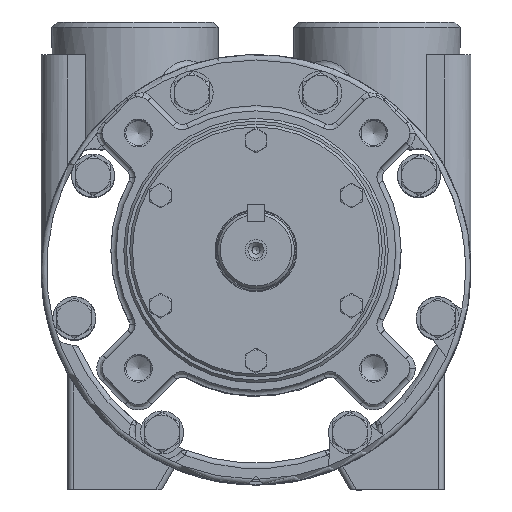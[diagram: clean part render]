
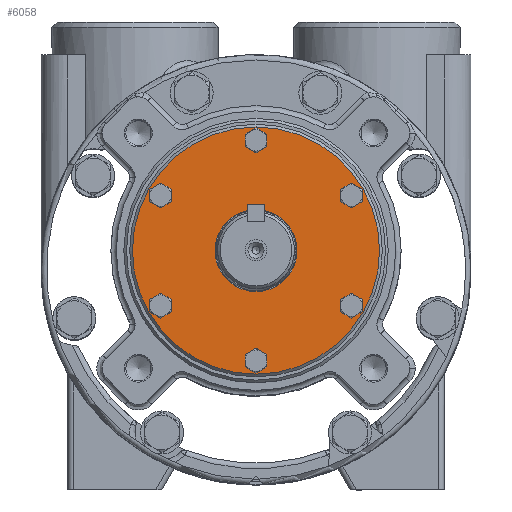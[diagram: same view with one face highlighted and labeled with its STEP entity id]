
A CAD part, top view. The second image highlights one B-rep face of the part: STEP entity #6058.
In plain terms, the highlighted planar face has unit normal (0, 0, 1).
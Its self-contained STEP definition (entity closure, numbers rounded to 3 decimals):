
#242 = FACE_BOUND ( 'NONE', #40261, .T. ) ;
#409 = EDGE_CURVE ( 'NONE', #11302, #11302, #19722, .T. ) ;
#464 = CIRCLE ( 'NONE', #6366, 4. ) ;
#470 = FACE_OUTER_BOUND ( 'NONE', #41427, .T. ) ;
#493 = CIRCLE ( 'NONE', #16029, 4. ) ;
#973 = AXIS2_PLACEMENT_3D ( 'NONE', #5956, #22854, #30714 ) ;
#1109 = EDGE_CURVE ( 'NONE', #25164, #25164, #25176, .T. ) ;
#2266 = CARTESIAN_POINT ( 'NONE',  ( 15.25, 7., 113.75 ) ) ;
#3285 = CIRCLE ( 'NONE', #973, 4. ) ;
#4436 = ORIENTED_EDGE ( 'NONE', *, *, #409, .F. ) ;
#4643 = PLANE ( 'NONE',  #5414 ) ;
#5260 = ORIENTED_EDGE ( 'NONE', *, *, #36719, .F. ) ;
#5350 = EDGE_CURVE ( 'NONE', #32350, #32350, #493, .T. ) ;
#5414 = AXIS2_PLACEMENT_3D ( 'NONE', #21973, #32164, #18748 ) ;
#5956 = CARTESIAN_POINT ( 'NONE',  ( 0., -34., 113.75 ) ) ;
#6058 = ADVANCED_FACE ( 'NONE', ( #470, #242, #14602, #25219, #15059, #25689, #36110, #8098 ), #4643, .F. ) ;
#6366 = AXIS2_PLACEMENT_3D ( 'NONE', #26402, #29888, #12062 ) ;
#6712 = AXIS2_PLACEMENT_3D ( 'NONE', #12506, #7872, #15071 ) ;
#6739 = ORIENTED_EDGE ( 'NONE', *, *, #32360, .F. ) ;
#7109 = DIRECTION ( 'NONE',  ( 1., 0., 0. ) ) ;
#7142 = DIRECTION ( 'NONE',  ( 0., 0., 1. ) ) ;
#7571 = CARTESIAN_POINT ( 'NONE',  ( 0., 53., 113.75 ) ) ;
#7872 = DIRECTION ( 'NONE',  ( 0., 0., -1. ) ) ;
#7971 = DIRECTION ( 'NONE',  ( 0., 0., 1. ) ) ;
#8098 = FACE_BOUND ( 'NONE', #35243, .T. ) ;
#8236 = ORIENTED_EDGE ( 'NONE', *, *, #9190, .F. ) ;
#9156 = EDGE_LOOP ( 'NONE', ( #4436 ) ) ;
#9190 = EDGE_CURVE ( 'NONE', #31875, #31875, #3285, .T. ) ;
#10425 = DIRECTION ( 'NONE',  ( 1., 0., 0. ) ) ;
#10792 = ORIENTED_EDGE ( 'NONE', *, *, #31900, .F. ) ;
#10823 = CARTESIAN_POINT ( 'NONE',  ( 39.507, -13.5, 113.75 ) ) ;
#11302 = VERTEX_POINT ( 'NONE', #10823 ) ;
#12062 = DIRECTION ( 'NONE',  ( 1., 0., 0. ) ) ;
#12506 = CARTESIAN_POINT ( 'NONE',  ( 0., 7., 113.75 ) ) ;
#14016 = EDGE_LOOP ( 'NONE', ( #23002 ) ) ;
#14602 = FACE_BOUND ( 'NONE', #39458, .T. ) ;
#15059 = FACE_BOUND ( 'NONE', #43128, .T. ) ;
#15067 = ORIENTED_EDGE ( 'NONE', *, *, #41814, .F. ) ;
#15071 = DIRECTION ( 'NONE',  ( 0., 1., 0. ) ) ;
#16029 = AXIS2_PLACEMENT_3D ( 'NONE', #39440, #7971, #36660 ) ;
#16170 = DIRECTION ( 'NONE',  ( 1., 0., 0. ) ) ;
#16576 = CARTESIAN_POINT ( 'NONE',  ( 39.507, 27.5, 113.75 ) ) ;
#17257 = VERTEX_POINT ( 'NONE', #41373 ) ;
#17347 = DIRECTION ( 'NONE',  ( 0., 0., 1. ) ) ;
#18748 = DIRECTION ( 'NONE',  ( -1., 0., 0. ) ) ;
#19722 = CIRCLE ( 'NONE', #39658, 4. ) ;
#21288 = CIRCLE ( 'NONE', #30926, 4. ) ;
#21973 = CARTESIAN_POINT ( 'NONE',  ( 46.552, -39.552, 113.75 ) ) ;
#22854 = DIRECTION ( 'NONE',  ( 0., 0., 1. ) ) ;
#23002 = ORIENTED_EDGE ( 'NONE', *, *, #5350, .F. ) ;
#24243 = DIRECTION ( 'NONE',  ( 0., 0., 1. ) ) ;
#24518 = DIRECTION ( 'NONE',  ( 1., 0., 0. ) ) ;
#24703 = CARTESIAN_POINT ( 'NONE',  ( 35.507, -13.5, 113.75 ) ) ;
#25164 = VERTEX_POINT ( 'NONE', #7571 ) ;
#25176 = CIRCLE ( 'NONE', #6712, 46. ) ;
#25219 = FACE_BOUND ( 'NONE', #9156, .T. ) ;
#25689 = FACE_BOUND ( 'NONE', #34226, .T. ) ;
#26402 = CARTESIAN_POINT ( 'NONE',  ( 0., 48., 113.75 ) ) ;
#26970 = AXIS2_PLACEMENT_3D ( 'NONE', #38861, #17347, #10425 ) ;
#27690 = ORIENTED_EDGE ( 'NONE', *, *, #1109, .F. ) ;
#29365 = AXIS2_PLACEMENT_3D ( 'NONE', #41838, #24243, #16170 ) ;
#29888 = DIRECTION ( 'NONE',  ( 0., 0., 1. ) ) ;
#30714 = DIRECTION ( 'NONE',  ( 1., 0., 0. ) ) ;
#30926 = AXIS2_PLACEMENT_3D ( 'NONE', #38837, #7142, #24518 ) ;
#31389 = CIRCLE ( 'NONE', #26970, 15.25 ) ;
#31661 = CARTESIAN_POINT ( 'NONE',  ( 4., -34., 113.75 ) ) ;
#31875 = VERTEX_POINT ( 'NONE', #31661 ) ;
#31900 = EDGE_CURVE ( 'NONE', #17257, #17257, #464, .T. ) ;
#32164 = DIRECTION ( 'NONE',  ( 0., 0., -1. ) ) ;
#32350 = VERTEX_POINT ( 'NONE', #42313 ) ;
#32360 = EDGE_CURVE ( 'NONE', #41580, #41580, #35973, .T. ) ;
#33944 = VERTEX_POINT ( 'NONE', #2266 ) ;
#34161 = VERTEX_POINT ( 'NONE', #16576 ) ;
#34226 = EDGE_LOOP ( 'NONE', ( #6739 ) ) ;
#35243 = EDGE_LOOP ( 'NONE', ( #10792 ) ) ;
#35973 = CIRCLE ( 'NONE', #29365, 4. ) ;
#36110 = FACE_BOUND ( 'NONE', #14016, .T. ) ;
#36660 = DIRECTION ( 'NONE',  ( 1., 0., 0. ) ) ;
#36719 = EDGE_CURVE ( 'NONE', #33944, #33944, #31389, .T. ) ;
#38805 = DIRECTION ( 'NONE',  ( 0., 0., 1. ) ) ;
#38837 = CARTESIAN_POINT ( 'NONE',  ( 35.507, 27.5, 113.75 ) ) ;
#38861 = CARTESIAN_POINT ( 'NONE',  ( 0., 7., 113.75 ) ) ;
#39440 = CARTESIAN_POINT ( 'NONE',  ( -35.507, 27.5, 113.75 ) ) ;
#39458 = EDGE_LOOP ( 'NONE', ( #15067 ) ) ;
#39658 = AXIS2_PLACEMENT_3D ( 'NONE', #24703, #38805, #7109 ) ;
#40261 = EDGE_LOOP ( 'NONE', ( #5260 ) ) ;
#41373 = CARTESIAN_POINT ( 'NONE',  ( 4., 48., 113.75 ) ) ;
#41427 = EDGE_LOOP ( 'NONE', ( #27690 ) ) ;
#41580 = VERTEX_POINT ( 'NONE', #44599 ) ;
#41814 = EDGE_CURVE ( 'NONE', #34161, #34161, #21288, .T. ) ;
#41838 = CARTESIAN_POINT ( 'NONE',  ( -35.507, -13.5, 113.75 ) ) ;
#42313 = CARTESIAN_POINT ( 'NONE',  ( -31.507, 27.5, 113.75 ) ) ;
#43128 = EDGE_LOOP ( 'NONE', ( #8236 ) ) ;
#44599 = CARTESIAN_POINT ( 'NONE',  ( -31.507, -13.5, 113.75 ) ) ;
